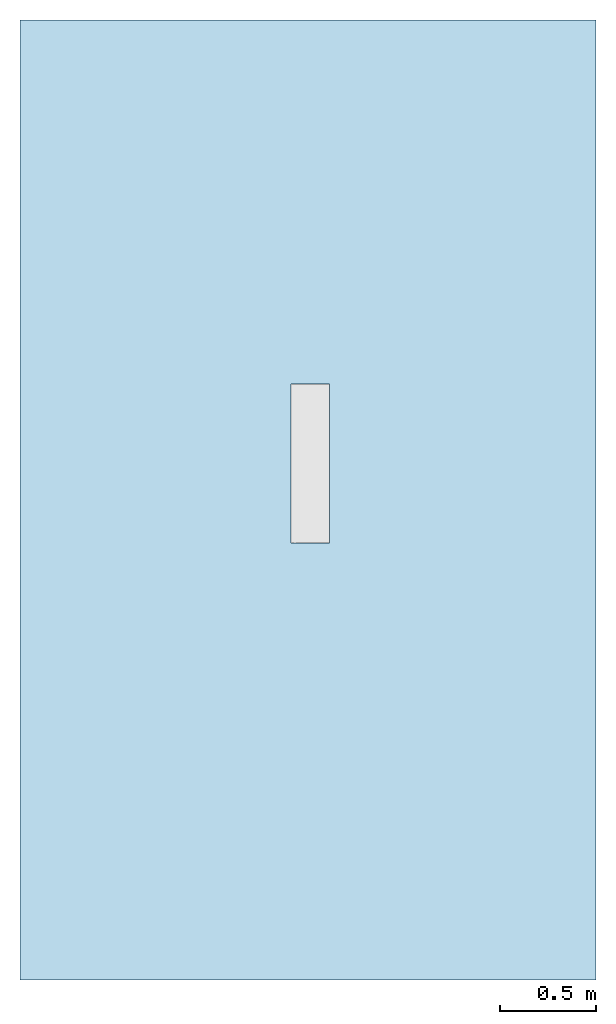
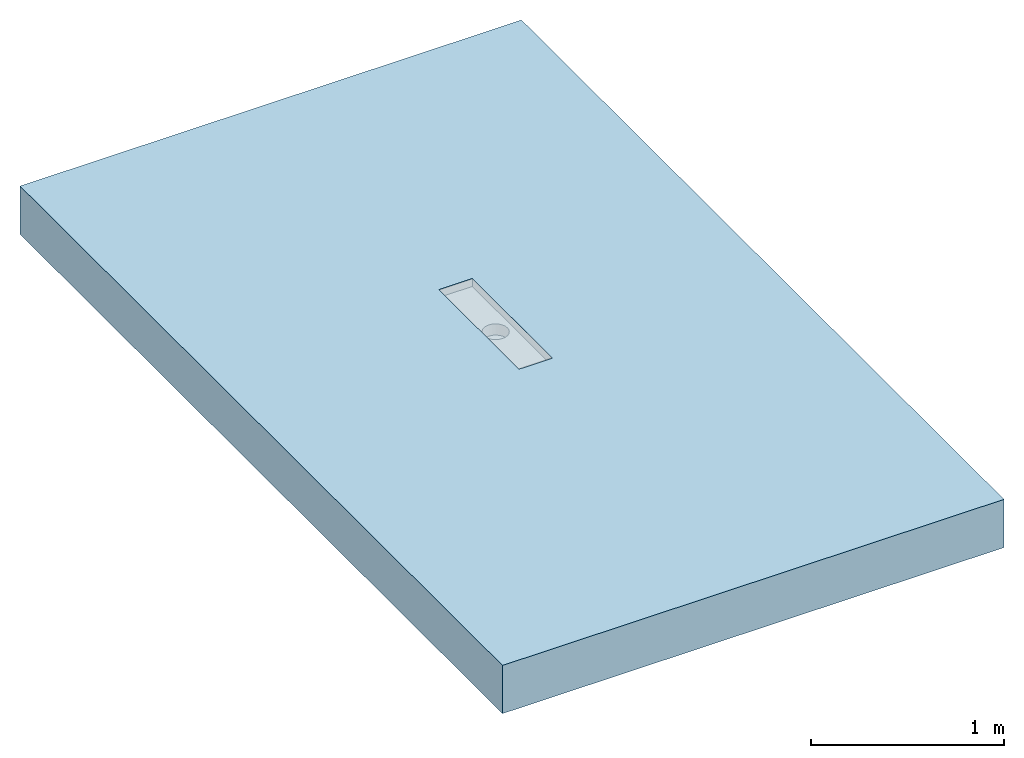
# One storey, incomplete: 1 slab, 1 opening.
"""IFC2X3 building model written with IfcOpenShell, lengths in millimetres."""

from ifc_helpers import new_model, entity, si_unit, converted_unit, derived_unit, direction, frame, frame_2d, origin, place, context, subcontext, project, spatial, rectangle, extrude, faceted_brep, material, layer, layer_set, layer_usage, element, save


model = new_model("IFC2X3")

# Units and contexts
model_context = context("Model", 3, precision=1e-05, world=origin(), true_north=direction((2.0, 6.12303176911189e-17, 1.0)))
context_of_model = context(None, 3, precision=1e-05, world=origin(), true_north=direction((2.0, 6.12303176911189e-17, 1.0)))
body_context = subcontext(model_context, "Body", "Model", "MODEL_VIEW")
ifc_project = project(units=[si_unit("LENGTHUNIT", "METRE", prefix="MILLI"), converted_unit("AREAUNIT", "SQUARE FOOT", entity("IfcRatioMeasure", 0.09290304), si_unit("AREAUNIT", "SQUARE_METRE"), dimensions=[2, 0, 0, 0, 0, 0, 0]), converted_unit("VOLUMEUNIT", "CUBIC FOOT", entity("IfcRatioMeasure", 0.028316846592), si_unit("VOLUMEUNIT", "CUBIC_METRE"), dimensions=[3, 0, 0, 0, 0, 0, 0]), converted_unit("PLANEANGLEUNIT", "DEGREE", entity("IfcRatioMeasure", 0.0174532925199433), si_unit("PLANEANGLEUNIT", "RADIAN"), dimensions=[0, 0, 0, 0, 0, 0, 0]), si_unit("MASSUNIT", "GRAM", prefix="KILO"), si_unit("TIMEUNIT", "SECOND"), si_unit("THERMODYNAMICTEMPERATUREUNIT", "KELVIN"), derived_unit("THERMALTRANSMITTANCEUNIT", [(si_unit("MASSUNIT", "GRAM", prefix="KILO"), 1), (si_unit("THERMODYNAMICTEMPERATUREUNIT", "KELVIN"), -1), (si_unit("TIMEUNIT", "SECOND"), -3)]), derived_unit("VOLUMETRICFLOWRATEUNIT", [(si_unit("LENGTHUNIT", "METRE"), 3), (si_unit("TIMEUNIT", "SECOND"), -1)]), si_unit("POWERUNIT", "WATT")], contexts=[model_context, context_of_model])

# Site, building, storey
site_placement = place(None, origin())
site = spatial("IfcSite", under=ifc_project, at=site_placement, Name="Default", CompositionType="ELEMENT")
building_placement = place(site_placement, origin())
building = spatial("IfcBuilding", under=site, at=building_placement, CompositionType="ELEMENT")
storey_placement = place(building_placement, origin())
storey = spatial("IfcBuildingStorey", under=building, at=storey_placement, Name="Level 1", CompositionType="ELEMENT", Elevation=0.0)

# Slab, opening
ifc_material = material(Name="Default Floor")
ifc_layer = layer(ifc_material, 304.8)
ifc_layer_set = layer_set([ifc_layer], Name="Floor:Generic - 12\"")
ifc_layer_usage = layer_usage(ifc_layer_set, "AXIS3", "POSITIVE", 0.0)
slab_placement = place(storey_placement, frame((-2592.42688678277, 381.838531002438, -304.8)))
slab = element("IfcSlab", 1, at=slab_placement, inside=storey, material=ifc_layer_usage, Name="Floor:Generic - 12\"", ObjectType="Floor:Generic - 12\"", PredefinedType="FLOOR", context=body_context, shape_type="SweptSolid", body=[
    extrude(rectangle(XDim=5000.0, YDim=3000.0, at=frame_2d((0.0, 0.0), x_axis=(0.0, -1.0))), frame((1500.0, 2500.0, 304.8), z_axis=(0.0, 0.0, -1.0), x_axis=(-1.0, 0.0, 0.0)), (0.0, 0.0, 1.0), 304.8),
])
opening_placement = place(slab_placement, frame((1411.6737629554, 2275.05483956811, 184.151793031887)))
element("IfcOpeningElement", 2, at=opening_placement, cuts=slab, ObjectType="Recess", context=body_context, shape_type="Brep", body=[
    faceted_brep([(200.0, 0.0, 70.6482069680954), (200.0, 0.0, 120.648206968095), (0.0, 0.0, 70.648206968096), (0.0, 0.0, 120.648206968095), (0.0, 830.0, 70.648206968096), (0.0, 830.0, 120.648206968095), (200.0, 830.0, 120.648206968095), (200.0, 830.0, 70.6482069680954), (64.4999999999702, 353.512196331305, 70.6482069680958), (81.6238477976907, 346.419266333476, 70.6482069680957), (49.7954185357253, 364.795418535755, 70.6482069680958), (100.0, 344.0, 70.6482069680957), (29.0, 415.0, 70.6482069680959), (31.4192663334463, 396.623847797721, 70.6482069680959), (38.5121963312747, 379.5, 70.6482069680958), (118.376152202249, 346.419266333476, 70.6482069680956), (135.49999999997, 353.512196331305, 70.6482069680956), (150.204581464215, 364.795418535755, 70.6482069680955), (161.487803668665, 379.5, 70.6482069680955), (168.580733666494, 396.623847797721, 70.6482069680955), (171.0, 415.0, 70.6482069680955), (38.5121963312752, 450.500000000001, 70.6482069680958), (31.4192663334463, 433.37615220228, 70.6482069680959), (49.7954185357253, 465.204581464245, 70.6482069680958), (64.4999999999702, 476.487803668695, 70.6482069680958), (81.6238477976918, 483.580733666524, 70.6482069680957), (100.0, 486.0, 70.6482069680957), (168.580733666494, 433.376152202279, 70.6482069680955), (161.487803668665, 450.5, 70.6482069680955), (135.49999999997, 476.487803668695, 70.6482069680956), (118.376152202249, 483.580733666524, 70.6482069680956), (150.204581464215, 465.204581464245, 70.6482069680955), (49.7954185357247, 364.795418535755, 0.0), (100.0, 344.0, 0.0), (81.6238477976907, 346.419266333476, 0.0), (64.4999999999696, 353.512196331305, 0.0), (38.5121963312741, 379.5, 0.0), (31.4192663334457, 396.623847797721, 0.0), (64.4999999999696, 476.487803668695, 0.0), (150.204581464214, 364.795418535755, 0.0), (150.204581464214, 465.204581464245, 0.0), (135.499999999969, 353.512196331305, 0.0), (118.376152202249, 346.419266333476, 0.0), (161.487803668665, 379.5, 0.0), (161.487803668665, 450.5, 0.0), (168.580733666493, 396.623847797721, 0.0), (171.0, 415.0, 0.0), (168.580733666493, 433.376152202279, 0.0), (38.5121963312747, 450.5, 0.0), (31.4192663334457, 433.376152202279, 0.0), (49.7954185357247, 465.204581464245, 0.0), (81.6238477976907, 483.580733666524, 0.0), (118.376152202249, 483.580733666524, 0.0), (135.49999999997, 476.487803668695, 0.0), (100.0, 486.0, 0.0), (29.0, 415.0, 0.0)], [[[0, 1, 2]], [[3, 2, 1]], [[4, 5, 6]], [[6, 7, 4]], [[3, 1, 6]], [[6, 5, 3]], [[2, 3, 4]], [[5, 4, 3]], [[1, 0, 7]], [[7, 6, 1]], [[2, 8, 9]], [[8, 2, 10]], [[2, 9, 11]], [[12, 13, 2]], [[14, 10, 2]], [[13, 14, 2]], [[2, 4, 12]], [[0, 11, 15]], [[11, 0, 2]], [[0, 15, 16]], [[16, 17, 0]], [[18, 19, 0]], [[17, 18, 0]], [[0, 19, 20]], [[21, 22, 4]], [[23, 21, 4]], [[24, 4, 25]], [[4, 24, 23]], [[26, 25, 4]], [[4, 7, 26]], [[22, 12, 4]], [[27, 28, 7]], [[20, 27, 7]], [[29, 30, 7]], [[31, 7, 28]], [[7, 31, 29]], [[30, 26, 7]], [[20, 7, 0]], [[32, 33, 34]], [[32, 34, 35]], [[32, 36, 37]], [[33, 32, 38]], [[39, 33, 40]], [[33, 41, 42]], [[33, 39, 41]], [[43, 44, 45]], [[46, 45, 47]], [[44, 43, 39]], [[37, 48, 32]], [[48, 37, 49]], [[48, 50, 32]], [[38, 51, 33]], [[32, 50, 38]], [[33, 51, 52]], [[45, 44, 47]], [[40, 44, 39]], [[40, 52, 53]], [[33, 52, 40]], [[54, 52, 51]], [[37, 55, 49]], [[28, 44, 40]], [[29, 53, 52]], [[40, 53, 31]], [[30, 52, 54]], [[20, 47, 27]], [[47, 20, 46]], [[27, 47, 28]], [[47, 44, 28]], [[40, 31, 28]], [[29, 31, 53]], [[52, 30, 29]], [[54, 26, 30]], [[25, 51, 38]], [[50, 24, 38]], [[21, 48, 49]], [[50, 48, 23]], [[22, 49, 55]], [[51, 25, 26]], [[38, 24, 25]], [[50, 23, 24]], [[48, 21, 23]], [[22, 21, 49]], [[55, 12, 22]], [[51, 26, 54]], [[37, 13, 55]], [[36, 14, 37]], [[34, 33, 9]], [[32, 10, 36]], [[37, 14, 13]], [[13, 12, 55]], [[8, 35, 9]], [[8, 10, 32]], [[35, 34, 9]], [[10, 14, 36]], [[32, 35, 8]], [[33, 11, 9]], [[15, 42, 41]], [[39, 16, 41]], [[18, 43, 45]], [[39, 43, 17]], [[19, 45, 46]], [[42, 15, 11]], [[41, 16, 15]], [[39, 17, 16]], [[43, 18, 17]], [[19, 18, 45]], [[46, 20, 19]], [[42, 11, 33]]]),
])

save(model, "model.ifc")
